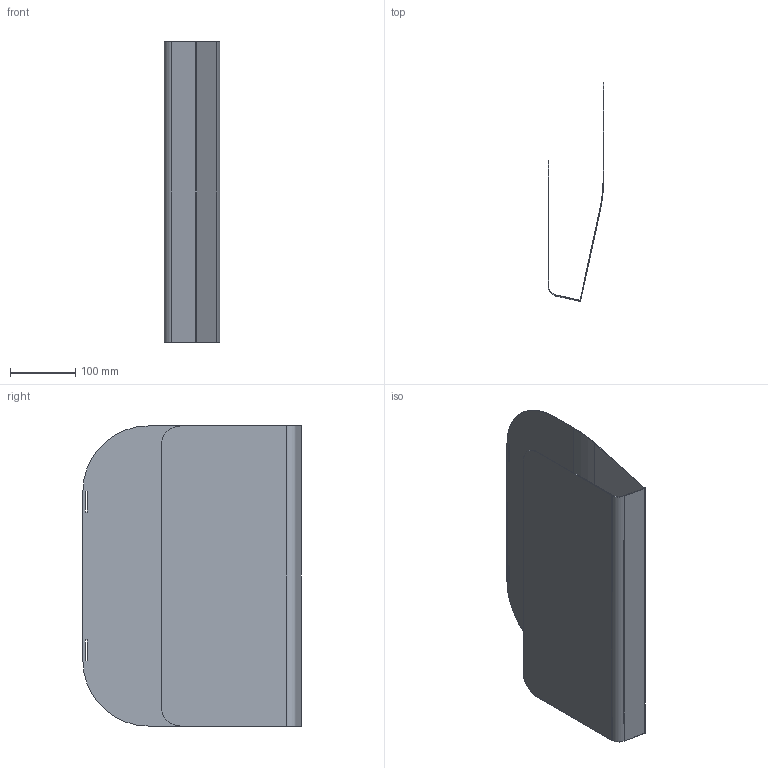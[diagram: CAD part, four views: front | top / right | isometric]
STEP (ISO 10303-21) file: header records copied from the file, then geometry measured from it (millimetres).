
FILE_DESCRIPTION (( 'STEP AP214' ), '1' );
FILE_NAME ('NIK_104.STEP', '2021-11-29T08:43:58', ( '' ), ( '' ), 'SwSTEP 2.0', 'SolidWorks 2019', '' );
FILE_SCHEMA (( 'AUTOMOTIVE_DESIGN' ));
Length unit declared in the file: millimetre
Products named in the file (1): NIK_104
Bounding box: 85.55 x 334.68 x 460 mm (x, y, z)
Volume: 265402.6 mm3; surface area: 532926.5 mm2
Topology: 1 solids, 1 shells, 42 faces, 96 edges, 56 vertices
Faces by surface type: plane 32, cylinder 10
Entity records: 1190 total; most frequent: DIRECTION 202, CARTESIAN_POINT 195, ORIENTED_EDGE 192, EDGE_CURVE 96, LINE 76, VECTOR 76, AXIS2_PLACEMENT_3D 63, VERTEX_POINT 56
